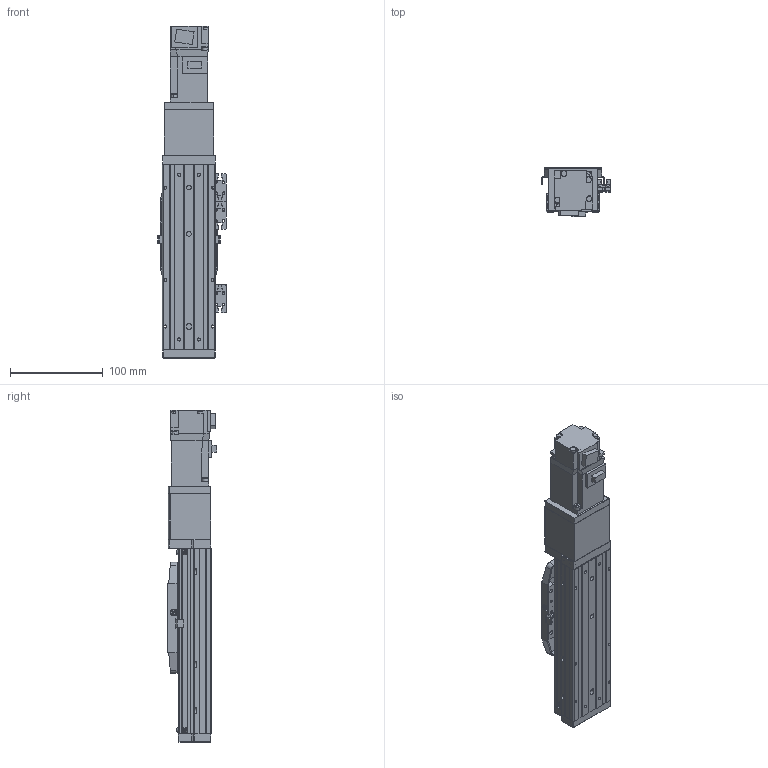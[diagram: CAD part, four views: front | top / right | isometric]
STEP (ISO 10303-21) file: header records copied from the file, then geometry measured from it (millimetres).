
FILE_DESCRIPTION (( 'STEP AP203' ), '1' );
FILE_NAME ('CTHA50-50-BC-M10-C4L.step', '2022-03-19T05:56:41', ( '微软用户' ), ( '微软中国' ), 'SwSTEP 2.0', 'SolidWorks 2020', '' );
FILE_SCHEMA (( 'CONFIG_CONTROL_DESIGN' ));
Length unit declared in the file: millimetre
Products named in the file (20): CTHA50-031; GBT77-2000 M3×3; CTHA50-006-2_CTHA60-006-2; CTHA50-50-BC-M10-C4L; GBT 70.1-M3℅6; CTHA50-013; KTHA50-001_200; CTHA60-017; HG-KR13（三菱）; KTHA50-004; GBT 70.1-M4×12; GBT 70.3-M3℅6; KTHA50-005; CTHA60-016; CTHA50-002; GB¨uT 70.2-M3¡Á6_M3¡Á6; CTHA60-021; CTHA50-030; EE_SX911P_R; CTHA50-027
Assembly tree (59 placements, depth 2):
  CTHA50-50-BC-M10-C4L
    KTHA50-001_200
    KTHA50-004
    KTHA50-005
    GB¨uT 70.2-M3¡Á6_M3¡Á6  x10
    EE_SX911P_R  x3
    GBT77-2000 M3×3  x6
    GBT 70.1-M3℅6  x6
    CTHA60-017  x3
    GBT 70.1-M4×12  x10
    CTHA60-016  x2
    CTHA60-021  x2
    CTHA50-027
    CTHA50-006-2_CTHA60-006-2
    CTHA50-013
    HG-KR13（三菱）
    GBT 70.3-M3℅6  x6
    CTHA50-002
    CTHA50-030  x2
    CTHA50-031
Bounding box: 74.12 x 53.3 x 358.6 mm (x, y, z)
Volume: 651622 mm3; surface area: 191047.6 mm2
Topology: 61 solids, 61 shells, 2356 faces, 5570 edges, 3402 vertices
Faces by surface type: plane 1354, cylinder 526, cone 356, torus 96, sphere 24
Entity records: 37406 total; most frequent: CARTESIAN_POINT 6003, DIRECTION 5970, ORIENTED_EDGE 5708, EDGE_CURVE 2854, VECTOR 2078, LINE 2078, AXIS2_PLACEMENT_3D 1946, VERTEX_POINT 1795
